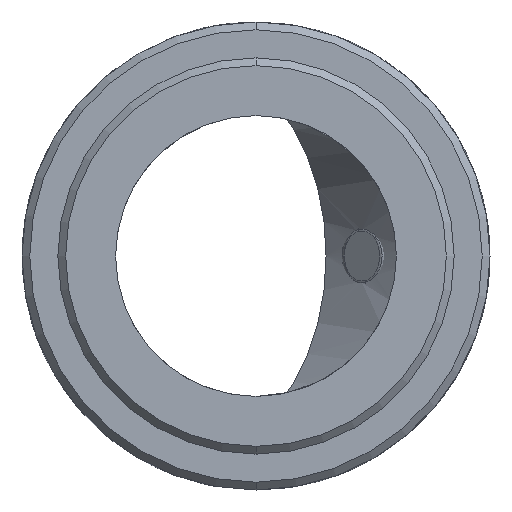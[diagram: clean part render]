
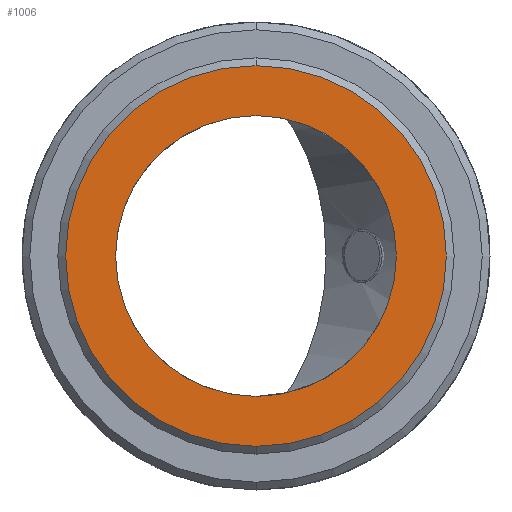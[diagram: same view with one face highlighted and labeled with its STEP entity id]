
A CAD part, front view. The second image highlights one B-rep face of the part: STEP entity #1006.
In plain terms, the highlighted planar face has unit normal (0, -1, 0).
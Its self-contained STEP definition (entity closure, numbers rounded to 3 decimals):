
#16 = EDGE_CURVE ( 'NONE', #1693, #1206, #1341, .T. ) ;
#73 = CIRCLE ( 'NONE', #1021, 9. ) ;
#77 = VERTEX_POINT ( 'NONE', #1717 ) ;
#81 = DIRECTION ( 'NONE',  ( 0., 0., -1. ) ) ;
#113 = DIRECTION ( 'NONE',  ( 0., 0., -1. ) ) ;
#158 = AXIS2_PLACEMENT_3D ( 'NONE', #1748, #1724, #481 ) ;
#171 = EDGE_CURVE ( 'NONE', #77, #667, #73, .T. ) ;
#194 = EDGE_CURVE ( 'NONE', #1206, #1693, #1282, .T. ) ;
#199 = FACE_BOUND ( 'NONE', #1623, .T. ) ;
#209 = PLANE ( 'NONE',  #1529 ) ;
#298 = EDGE_LOOP ( 'NONE', ( #795, #732 ) ) ;
#481 = DIRECTION ( 'NONE',  ( 0., 0., -1. ) ) ;
#567 = EDGE_CURVE ( 'NONE', #667, #77, #1588, .T. ) ;
#592 = DIRECTION ( 'NONE',  ( 0., -1., 0. ) ) ;
#636 = ORIENTED_EDGE ( 'NONE', *, *, #567, .F. ) ;
#667 = VERTEX_POINT ( 'NONE', #1241 ) ;
#711 = DIRECTION ( 'NONE',  ( 0., -1., 0. ) ) ;
#732 = ORIENTED_EDGE ( 'NONE', *, *, #16, .T. ) ;
#795 = ORIENTED_EDGE ( 'NONE', *, *, #194, .T. ) ;
#881 = CARTESIAN_POINT ( 'NONE',  ( 0., 0., 0. ) ) ;
#1006 = ADVANCED_FACE ( 'NONE', ( #1772, #199 ), #209, .T. ) ;
#1007 = CARTESIAN_POINT ( 'NONE',  ( 0., 0., -12.2 ) ) ;
#1021 = AXIS2_PLACEMENT_3D ( 'NONE', #881, #592, #81 ) ;
#1023 = DIRECTION ( 'NONE',  ( 0., 0., -1. ) ) ;
#1032 = ORIENTED_EDGE ( 'NONE', *, *, #171, .F. ) ;
#1176 = DIRECTION ( 'NONE',  ( 0., -1., 0. ) ) ;
#1206 = VERTEX_POINT ( 'NONE', #1222 ) ;
#1222 = CARTESIAN_POINT ( 'NONE',  ( 0., 0., 12.2 ) ) ;
#1241 = CARTESIAN_POINT ( 'NONE',  ( 0., 0., 9. ) ) ;
#1282 = CIRCLE ( 'NONE', #158, 12.2 ) ;
#1338 = CARTESIAN_POINT ( 'NONE',  ( 0., 0., 0. ) ) ;
#1341 = CIRCLE ( 'NONE', #1373, 12.2 ) ;
#1344 = AXIS2_PLACEMENT_3D ( 'NONE', #1670, #711, #1396 ) ;
#1373 = AXIS2_PLACEMENT_3D ( 'NONE', #1338, #1673, #113 ) ;
#1396 = DIRECTION ( 'NONE',  ( 0., 0., -1. ) ) ;
#1441 = CARTESIAN_POINT ( 'NONE',  ( 0., 0., -12.7 ) ) ;
#1529 = AXIS2_PLACEMENT_3D ( 'NONE', #1441, #1176, #1023 ) ;
#1588 = CIRCLE ( 'NONE', #1344, 9. ) ;
#1623 = EDGE_LOOP ( 'NONE', ( #1032, #636 ) ) ;
#1670 = CARTESIAN_POINT ( 'NONE',  ( 0., 0., 0. ) ) ;
#1673 = DIRECTION ( 'NONE',  ( 0., -1., 0. ) ) ;
#1693 = VERTEX_POINT ( 'NONE', #1007 ) ;
#1717 = CARTESIAN_POINT ( 'NONE',  ( 0., 0., -9. ) ) ;
#1724 = DIRECTION ( 'NONE',  ( 0., -1., 0. ) ) ;
#1748 = CARTESIAN_POINT ( 'NONE',  ( 0., 0., 0. ) ) ;
#1772 = FACE_OUTER_BOUND ( 'NONE', #298, .T. ) ;
